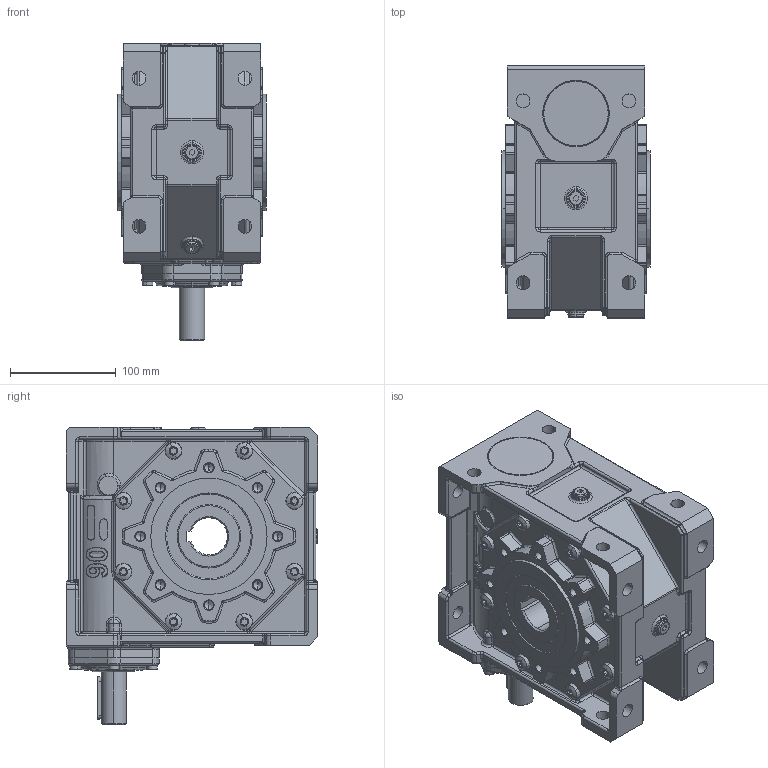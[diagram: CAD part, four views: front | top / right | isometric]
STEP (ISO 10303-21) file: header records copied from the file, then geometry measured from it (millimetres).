
FILE_DESCRIPTION (( 'STEP AP214' ), '1' );
FILE_NAME ('MKT90-FTRL-Solid Shaft.STEP', '2006-05-10T12:21:46', ( '' ), ( '' ), 'SwSTEP 2.0', 'SolidWorks 2004146', '' );
FILE_SCHEMA (( 'AUTOMOTIVE_DESIGN' ));
Length unit declared in the file: millimetre
Products named in the file (4): Víèko RT80_Výchozí; Skrin MKT90_MKT90 SolidShaft; D6912_Šroub DIN 6912 - M6x25; MKT90-FTRL-Solid Shaft
Assembly tree (8 placements, depth 2):
  MKT90-FTRL-Solid Shaft
    D6912_Šroub DIN 6912 - M6x25  x6
    Víèko RT80_Výchozí
    Skrin MKT90_MKT90 SolidShaft
Bounding box: 140 x 238 x 281 mm (x, y, z)
Volume: 4913266.8 mm3; surface area: 339918.1 mm2
Topology: 8 solids, 8 shells, 2059 faces, 4904 edges, 2805 vertices
Faces by surface type: cylinder 825, plane 390, torus 301, bspline 218, cone 202, sphere 123
Entity records: 200889 total; most frequent: CARTESIAN_POINT 154148, DIRECTION 9372, ORIENTED_EDGE 8824, EDGE_CURVE 4412, AXIS2_PLACEMENT_3D 3864, VERTEX_POINT 2630, CIRCLE 2197, EDGE_LOOP 2004
